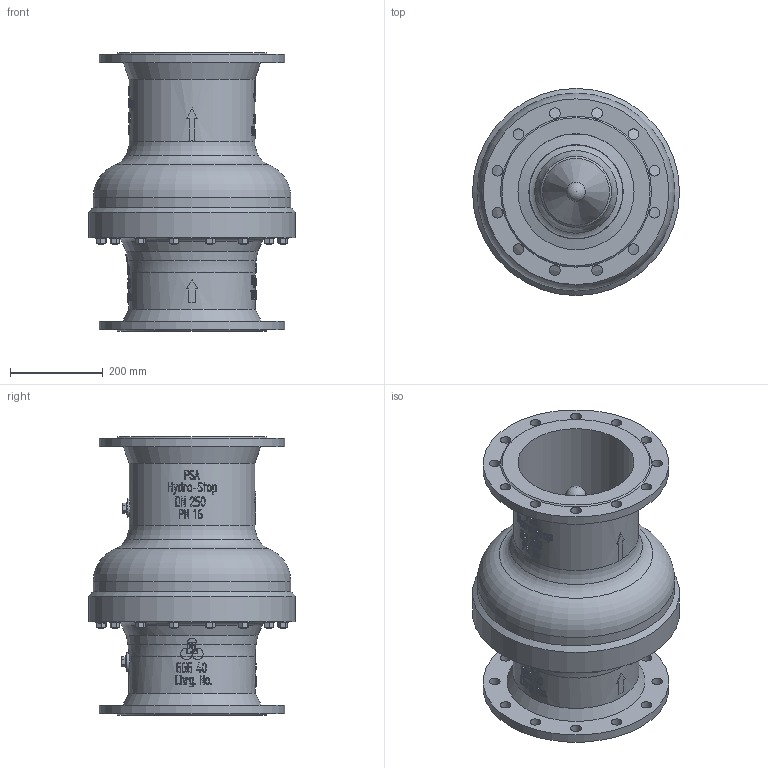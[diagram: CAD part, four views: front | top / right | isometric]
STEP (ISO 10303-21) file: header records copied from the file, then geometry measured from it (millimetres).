
FILE_DESCRIPTION(/* description */ ('PSA Hydro-Stop DN250 PN10'),/* implementation_level */ '2;1');
FILE_NAME(/* name */ 'PSA_Hydro-Stop_DN250_PN10',/* time_stamp */ '2024-10-09T15:08:50+02:00',/* author */ ('Christin-Michelle Fremgen'),/* organization */ ('PSA Wasserarmaturen GmbH'),/* preprocessor_version */ 'ST-DEVELOPER v18.104',/* originating_system */ 'Solid Edge',/* authorisation */ 'Unknown');
FILE_SCHEMA (('AUTOMOTIVE_DESIGN {1 0 10303 214 3 1 1}'));
Products named in the file (1): PSA_Hydro-Stop_DN250_PN10
Bounding box: 446 x 446 x 600 mm (x, y, z)
Volume: 24024382 mm3; surface area: 2016782.6 mm2
Topology: 1 solids, 23 shells, 1480 faces, 3729 edges, 2457 vertices
Faces by surface type: plane 799, cylinder 276, cone 177, bspline 161, torus 64, sphere 3
Full cylindrical faces by diameter (mm): 12 x16, 13.835 x3, 16 x1, 18.631 x1, 21 x2, 23 x24, 24 x16, 26 x2, 27 x2, 40 x2, 196 x1, 210 x1, 225 x1, 250 x2, 270 x1, 272 x1, 400 x2, 425.764 x1, 427 x1, 430 x1, 431 x1, 446 x1
Entity records: 66327 total; most frequent: CARTESIAN_POINT 23060, ORIENTED_EDGE 6770, DIRECTION 6377, EDGE_CURVE 3385, AXIS2_PLACEMENT_3D 2487, VERTEX_POINT 2322, FACE_BOUND 1901, EDGE_LOOP 1900
